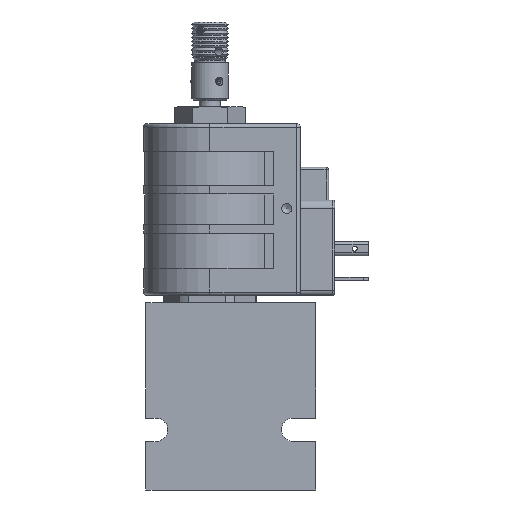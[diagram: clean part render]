
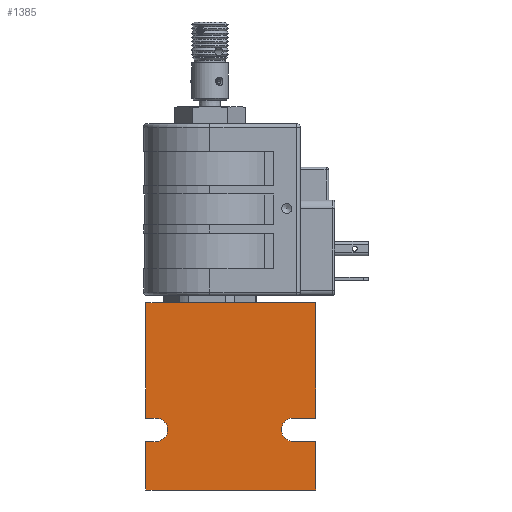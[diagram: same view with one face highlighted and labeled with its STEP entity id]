
A CAD part, front view. The second image highlights one B-rep face of the part: STEP entity #1385.
In plain terms, the highlighted planar face has unit normal (0, -1, 0).
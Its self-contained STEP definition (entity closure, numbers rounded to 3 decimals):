
#1385 = ADVANCED_FACE( '', ( #3170 ), #3171, .T. );
#3170 = FACE_OUTER_BOUND( '', #5682, .T. );
#3171 = PLANE( '', #5683 );
#5682 = EDGE_LOOP( '', ( #9028, #9029, #9030, #9031, #9032, #9033, #9034, #9035, #9036, #9037, #9038, #9039 ) );
#5683 = AXIS2_PLACEMENT_3D( '', #9040, #9041, #9042 );
#9028 = ORIENTED_EDGE( '', *, *, #15112, .F. );
#9029 = ORIENTED_EDGE( '', *, *, #14608, .F. );
#9030 = ORIENTED_EDGE( '', *, *, #15113, .F. );
#9031 = ORIENTED_EDGE( '', *, *, #15114, .F. );
#9032 = ORIENTED_EDGE( '', *, *, #15115, .F. );
#9033 = ORIENTED_EDGE( '', *, *, #14988, .F. );
#9034 = ORIENTED_EDGE( '', *, *, #15116, .F. );
#9035 = ORIENTED_EDGE( '', *, *, #14764, .F. );
#9036 = ORIENTED_EDGE( '', *, *, #15117, .F. );
#9037 = ORIENTED_EDGE( '', *, *, #15118, .F. );
#9038 = ORIENTED_EDGE( '', *, *, #15119, .F. );
#9039 = ORIENTED_EDGE( '', *, *, #15120, .F. );
#9040 = CARTESIAN_POINT( '', ( 44., 0., -38. ) );
#9041 = DIRECTION( '', ( 0., -1., 0. ) );
#9042 = DIRECTION( '', ( 0., 0., -1. ) );
#14608 = EDGE_CURVE( '', #17428, #17429, #17430, .T. );
#14764 = EDGE_CURVE( '', #17703, #17704, #17705, .T. );
#14988 = EDGE_CURVE( '', #18088, #18089, #18090, .T. );
#15112 = EDGE_CURVE( '', #17429, #18295, #18296, .T. );
#15113 = EDGE_CURVE( '', #18297, #17428, #18298, .T. );
#15114 = EDGE_CURVE( '', #18299, #18297, #18300, .T. );
#15115 = EDGE_CURVE( '', #18089, #18299, #18301, .T. );
#15116 = EDGE_CURVE( '', #17704, #18088, #18302, .T. );
#15117 = EDGE_CURVE( '', #18303, #17703, #18304, .T. );
#15118 = EDGE_CURVE( '', #18305, #18303, #18306, .T. );
#15119 = EDGE_CURVE( '', #18307, #18305, #18308, .T. );
#15120 = EDGE_CURVE( '', #18295, #18307, #18309, .T. );
#17428 = VERTEX_POINT( '', #21918 );
#17429 = VERTEX_POINT( '', #21919 );
#17430 = LINE( '', #21920, #21921 );
#17703 = VERTEX_POINT( '', #22357 );
#17704 = VERTEX_POINT( '', #22358 );
#17705 = LINE( '', #22359, #22360 );
#18088 = VERTEX_POINT( '', #23016 );
#18089 = VERTEX_POINT( '', #23017 );
#18090 = LINE( '', #23018, #23019 );
#18295 = VERTEX_POINT( '', #23344 );
#18296 = LINE( '', #23345, #23346 );
#18297 = VERTEX_POINT( '', #23347 );
#18298 = CIRCLE( '', #23348, 3.5 );
#18299 = VERTEX_POINT( '', #23349 );
#18300 = LINE( '', #23350, #23351 );
#18301 = LINE( '', #23352, #23353 );
#18302 = LINE( '', #23354, #23355 );
#18303 = VERTEX_POINT( '', #23356 );
#18304 = CIRCLE( '', #23357, 3.5 );
#18305 = VERTEX_POINT( '', #23358 );
#18306 = LINE( '', #23359, #23360 );
#18307 = VERTEX_POINT( '', #23361 );
#18308 = LINE( '', #23362, #23363 );
#18309 = LINE( '', #23364, #23365 );
#21918 = CARTESIAN_POINT( '', ( 3., 0., -34.5 ) );
#21919 = CARTESIAN_POINT( '', ( 0., 0., -34.5 ) );
#21920 = CARTESIAN_POINT( '', ( 3., 0., -34.5 ) );
#21921 = VECTOR( '', #29811, 1000. );
#22357 = CARTESIAN_POINT( '', ( 44., 0., -41.5 ) );
#22358 = CARTESIAN_POINT( '', ( 50.8, 0., -41.5 ) );
#22359 = CARTESIAN_POINT( '', ( 44., 0., -41.5 ) );
#22360 = VECTOR( '', #29967, 1000. );
#23016 = CARTESIAN_POINT( '', ( 50.8, 0., -56. ) );
#23017 = CARTESIAN_POINT( '', ( 0., 0., -56. ) );
#23018 = CARTESIAN_POINT( '', ( 50.8, 0., -56. ) );
#23019 = VECTOR( '', #30186, 1000. );
#23344 = CARTESIAN_POINT( '', ( 0., 0., 0. ) );
#23345 = CARTESIAN_POINT( '', ( 0., 0., -34.5 ) );
#23346 = VECTOR( '', #30286, 1000. );
#23347 = CARTESIAN_POINT( '', ( 3., 0., -41.5 ) );
#23348 = AXIS2_PLACEMENT_3D( '', #30287, #30288, #30289 );
#23349 = CARTESIAN_POINT( '', ( 0., 0., -41.5 ) );
#23350 = CARTESIAN_POINT( '', ( 3., 0., -41.5 ) );
#23351 = VECTOR( '', #30290, 1000. );
#23352 = CARTESIAN_POINT( '', ( 0., 0., -56. ) );
#23353 = VECTOR( '', #30291, 1000. );
#23354 = CARTESIAN_POINT( '', ( 50.8, 0., -41.5 ) );
#23355 = VECTOR( '', #30292, 1000. );
#23356 = CARTESIAN_POINT( '', ( 44., 0., -34.5 ) );
#23357 = AXIS2_PLACEMENT_3D( '', #30293, #30294, #30295 );
#23358 = CARTESIAN_POINT( '', ( 50.8, 0., -34.5 ) );
#23359 = CARTESIAN_POINT( '', ( 44., 0., -34.5 ) );
#23360 = VECTOR( '', #30296, 1000. );
#23361 = CARTESIAN_POINT( '', ( 50.8, 0., 0. ) );
#23362 = CARTESIAN_POINT( '', ( 50.8, 0., 0. ) );
#23363 = VECTOR( '', #30297, 1000. );
#23364 = CARTESIAN_POINT( '', ( 0., 0., 0. ) );
#23365 = VECTOR( '', #30298, 1000. );
#29811 = DIRECTION( '', ( -1., 0., 0. ) );
#29967 = DIRECTION( '', ( 1., 0., 0. ) );
#30186 = DIRECTION( '', ( -1., 0., 0. ) );
#30286 = DIRECTION( '', ( 0., 0., 1. ) );
#30287 = CARTESIAN_POINT( '', ( 3., 0., -38. ) );
#30288 = DIRECTION( '', ( 0., -1., 0. ) );
#30289 = DIRECTION( '', ( -1., 0., 0. ) );
#30290 = DIRECTION( '', ( 1., 0., 0. ) );
#30291 = DIRECTION( '', ( 0., 0., 1. ) );
#30292 = DIRECTION( '', ( 0., 0., -1. ) );
#30293 = CARTESIAN_POINT( '', ( 44., 0., -38. ) );
#30294 = DIRECTION( '', ( 0., -1., 0. ) );
#30295 = DIRECTION( '', ( 1., 0., 0. ) );
#30296 = DIRECTION( '', ( -1., 0., 0. ) );
#30297 = DIRECTION( '', ( 0., 0., -1. ) );
#30298 = DIRECTION( '', ( 1., 0., 0. ) );
